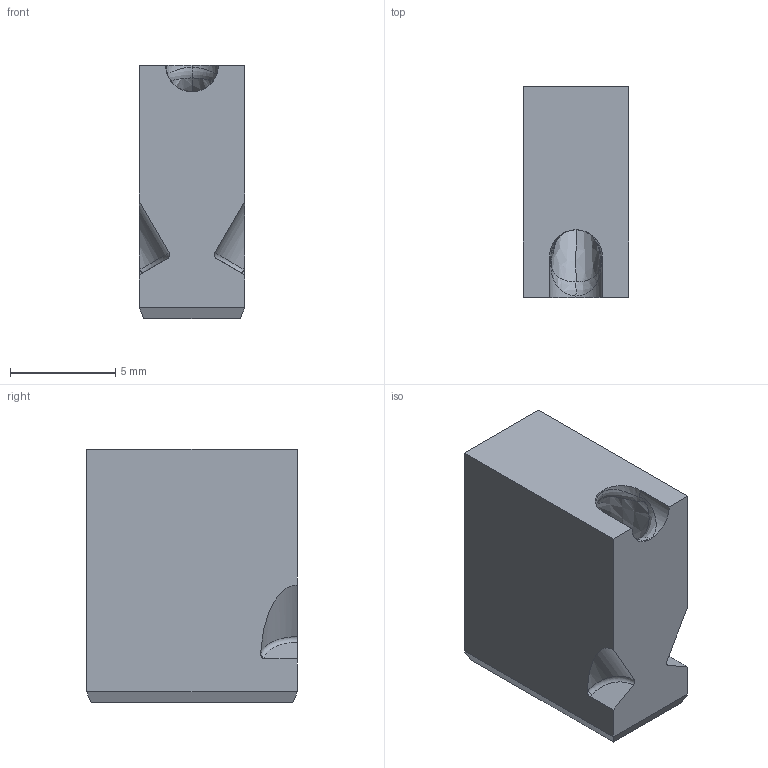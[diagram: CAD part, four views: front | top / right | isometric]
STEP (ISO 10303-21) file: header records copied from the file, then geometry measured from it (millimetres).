
FILE_DESCRIPTION((''),'2;1');
FILE_NAME('SGC-XS','2007-11-26T',('tmeister'),(''),'PRO/ENGINEER BY PARAMETRIC TECHNOLOGY CORPORATION, 2002390','PRO/ENGINEER BY PARAMETRIC TECHNOLOGY CORPORATION, 2002390','');
FILE_SCHEMA(('CONFIG_CONTROL_DESIGN'));
Length unit declared in the file: millimetre
Products named in the file (1): SGC-XS
Bounding box: 5 x 10 x 12 mm (x, y, z)
Volume: 510.6 mm3; surface area: 626 mm2
Topology: 1 solids, 2 shells, 50 faces, 143 edges, 103 vertices
Faces by surface type: plane 15, cylinder 13, bspline 10, cone 4, torus 4, sphere 4
Entity records: 2820 total; most frequent: CARTESIAN_POINT 1582, DIRECTION 230, ORIENTED_EDGE 228, EDGE_CURVE 116, AXIS2_PLACEMENT_3D 79, VECTOR 72, LINE 72, VERTEX_POINT 70
